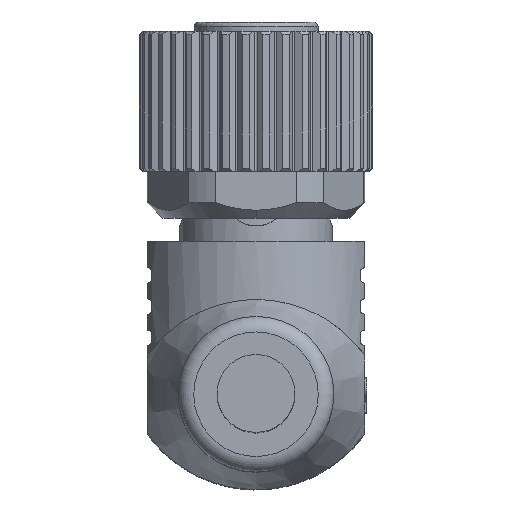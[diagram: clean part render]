
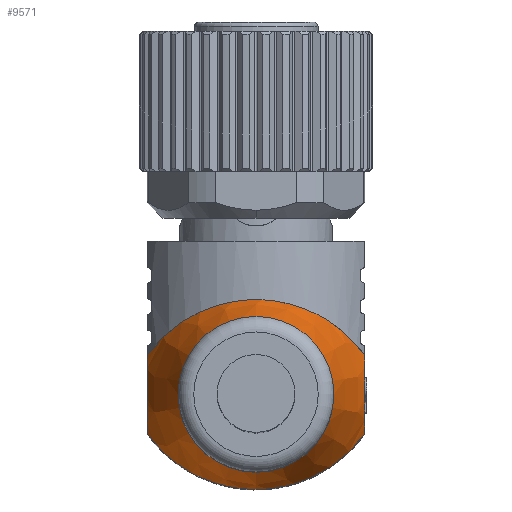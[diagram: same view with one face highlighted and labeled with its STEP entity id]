
A CAD part, top view. The second image highlights one B-rep face of the part: STEP entity #9571.
In plain terms, the highlighted conical face has half-angle 19.816 degrees and reference radius 8.308 mm.
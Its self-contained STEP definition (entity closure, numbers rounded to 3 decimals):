
#213=CONICAL_SURFACE('',#11855,8.308,19.816);
#3383=EDGE_LOOP('',(#6429));
#3384=EDGE_LOOP('',(#6430,#6431,#6432,#6433));
#3740=B_SPLINE_CURVE_WITH_KNOTS('',3,(#20171,#20172,#20173,#20174,#20175,
#20176,#20177,#20178,#20179,#20180),.UNSPECIFIED.,.F.,.F.,(4,2,2,2,4),(0.,
0.25,0.5,0.75,1.),.UNSPECIFIED.);
#3741=B_SPLINE_CURVE_WITH_KNOTS('',3,(#20183,#20184,#20185,#20186,#20187,
#20188),.UNSPECIFIED.,.F.,.F.,(4,2,4),(0.,0.5,1.),.UNSPECIFIED.);
#3742=B_SPLINE_CURVE_WITH_KNOTS('',3,(#20190,#20191,#20192,#20193,#20194,
#20195,#20196,#20197,#20198,#20199),.UNSPECIFIED.,.F.,.F.,(4,2,2,2,4),(0.,
0.25,0.5,0.75,1.),.UNSPECIFIED.);
#3743=B_SPLINE_CURVE_WITH_KNOTS('',3,(#20201,#20202,#20203,#20204,#20205,
#20206),.UNSPECIFIED.,.F.,.F.,(4,2,4),(0.,0.5,1.),.UNSPECIFIED.);
#6429=ORIENTED_EDGE('',*,*,#8225,.F.);
#6430=ORIENTED_EDGE('',*,*,#8340,.F.);
#6431=ORIENTED_EDGE('',*,*,#8341,.F.);
#6432=ORIENTED_EDGE('',*,*,#8342,.F.);
#6433=ORIENTED_EDGE('',*,*,#8343,.F.);
#8225=EDGE_CURVE('',#10725,#10725,#8997,.T.);
#8340=EDGE_CURVE('',#10783,#10784,#3740,.T.);
#8341=EDGE_CURVE('',#10785,#10783,#3741,.T.);
#8342=EDGE_CURVE('',#10786,#10785,#3742,.T.);
#8343=EDGE_CURVE('',#10784,#10786,#3743,.T.);
#8997=CIRCLE('',#11807,5.);
#9571=ADVANCED_FACE('',(#9814,#9815),#213,.T.);
#9814=FACE_BOUND('',#3383,.T.);
#9815=FACE_BOUND('',#3384,.T.);
#10725=VERTEX_POINT('',#19766);
#10783=VERTEX_POINT('',#20181);
#10784=VERTEX_POINT('',#20182);
#10785=VERTEX_POINT('',#20189);
#10786=VERTEX_POINT('',#20200);
#11807=AXIS2_PLACEMENT_3D('',#19765,#14357,#14358);
#11855=AXIS2_PLACEMENT_3D('',#20207,#14560,#14561);
#14357=DIRECTION('',(0.,0.,1.));
#14358=DIRECTION('',(0.,-1.,0.));
#14560=DIRECTION('',(0.,0.,-1.));
#14561=DIRECTION('',(0.,-1.,0.));
#19765=CARTESIAN_POINT('',(0.,-1.953,18.));
#19766=CARTESIAN_POINT('',(0.,-6.953,18.));
#20171=CARTESIAN_POINT('',(7.,-4.453,11.248));
#20172=CARTESIAN_POINT('',(6.292,-5.442,12.174));
#20173=CARTESIAN_POINT('',(5.375,-6.302,13.044));
#20174=CARTESIAN_POINT('',(3.01,-7.622,14.449));
#20175=CARTESIAN_POINT('',(1.532,-8.051,14.945));
#20176=CARTESIAN_POINT('',(-1.511,-8.054,14.949));
#20177=CARTESIAN_POINT('',(-3.,-7.625,14.452));
#20178=CARTESIAN_POINT('',(-5.355,-6.317,13.06));
#20179=CARTESIAN_POINT('',(-6.291,-5.444,12.175));
#20180=CARTESIAN_POINT('',(-7.,-4.453,11.248));
#20181=CARTESIAN_POINT('',(7.,-4.453,11.248));
#20182=CARTESIAN_POINT('',(-7.,-4.453,11.248));
#20183=CARTESIAN_POINT('',(7.,0.547,11.248));
#20184=CARTESIAN_POINT('',(7.,-0.148,11.897));
#20185=CARTESIAN_POINT('',(7.,-1.01,12.45));
#20186=CARTESIAN_POINT('',(7.,-2.899,12.449));
#20187=CARTESIAN_POINT('',(7.,-3.759,11.895));
#20188=CARTESIAN_POINT('',(7.,-4.453,11.248));
#20189=CARTESIAN_POINT('',(7.,0.547,11.248));
#20190=CARTESIAN_POINT('',(-7.,0.547,11.248));
#20191=CARTESIAN_POINT('',(-6.292,1.537,12.174));
#20192=CARTESIAN_POINT('',(-5.375,2.397,13.044));
#20193=CARTESIAN_POINT('',(-3.01,3.717,14.449));
#20194=CARTESIAN_POINT('',(-1.532,4.146,14.945));
#20195=CARTESIAN_POINT('',(1.511,4.149,14.949));
#20196=CARTESIAN_POINT('',(3.,3.719,14.452));
#20197=CARTESIAN_POINT('',(5.355,2.412,13.06));
#20198=CARTESIAN_POINT('',(6.291,1.539,12.175));
#20199=CARTESIAN_POINT('',(7.,0.547,11.248));
#20200=CARTESIAN_POINT('',(-7.,0.547,11.248));
#20201=CARTESIAN_POINT('',(-7.,-4.453,11.248));
#20202=CARTESIAN_POINT('',(-7.,-3.757,11.897));
#20203=CARTESIAN_POINT('',(-7.,-2.895,12.45));
#20204=CARTESIAN_POINT('',(-7.,-1.006,12.449));
#20205=CARTESIAN_POINT('',(-7.,-0.146,11.895));
#20206=CARTESIAN_POINT('',(-7.,0.547,11.248));
#20207=CARTESIAN_POINT('',(0.,-1.953,8.821));
